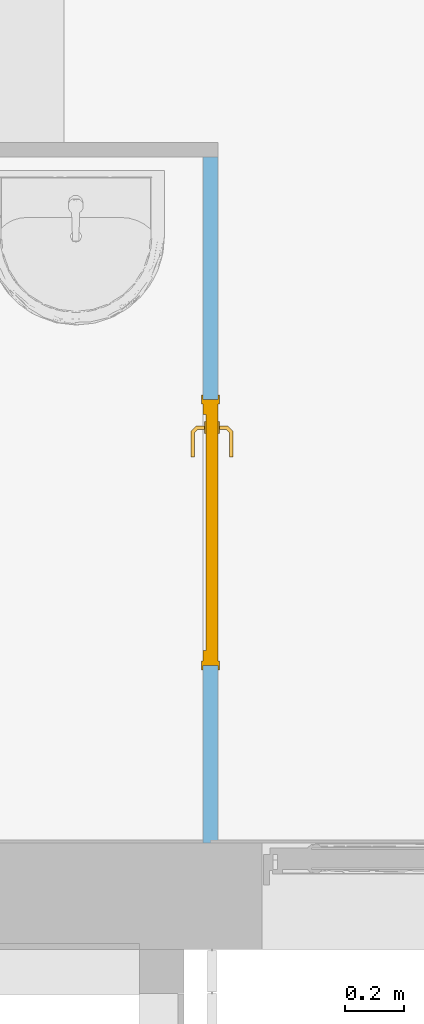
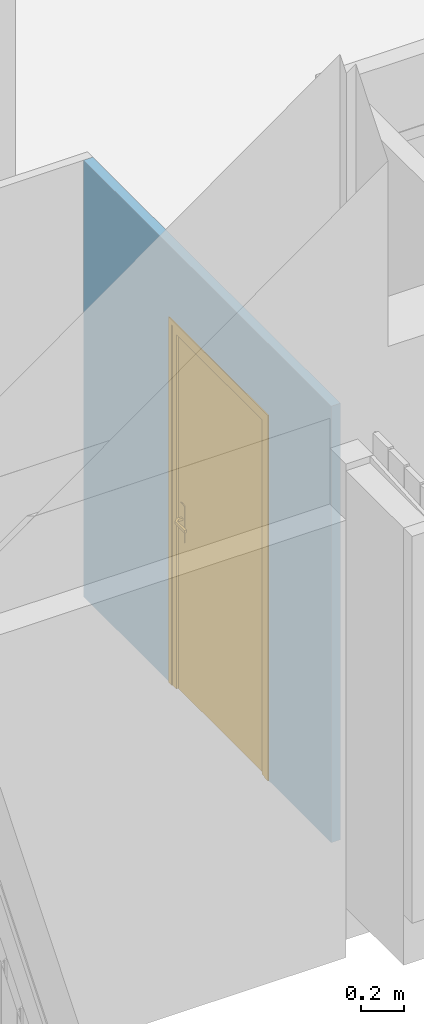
# One storey, part 74 of 81: 1 door, 1 opening, plus 1 element that does not belong to this part.
"""IFC2X3 building model written with IfcOpenShell, lengths in metres."""

from ifc_helpers import new_model, entity, si_unit, converted_unit, derived_unit, direction, frame, frame_2d, origin, place, context, subcontext, project, spatial, polyline, rectangle, extrude, clip, bounded_halfspace, faceted_brep, source, transform, mapped, material, material_list, layer, layer_set, layer_usage, type_object, type_shapes, element, fill, save


model = new_model("IFC2X3")

# Units and contexts
model_context = context("Model", 3, precision=1e-05, world=origin(), true_north=direction((6.12303176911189e-17, 1.0)))
body_context = subcontext(model_context, "Body", "Model", "MODEL_VIEW")
ifc_project = project(units=[si_unit("LENGTHUNIT", "METRE"), si_unit("AREAUNIT", "SQUARE_METRE"), si_unit("VOLUMEUNIT", "CUBIC_METRE"), converted_unit("PLANEANGLEUNIT", "DEGREE", entity("IfcRatioMeasure", 0.0174532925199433), si_unit("PLANEANGLEUNIT", "RADIAN"), dimensions=[0, 0, 0, 0, 0, 0, 0]), si_unit("MASSUNIT", "GRAM", prefix="KILO"), derived_unit("MASSDENSITYUNIT", [(si_unit("MASSUNIT", "GRAM", prefix="KILO"), 1), (si_unit("LENGTHUNIT", "METRE"), -3)]), derived_unit("MOMENTOFINERTIAUNIT", [(si_unit("LENGTHUNIT", "METRE"), 4)]), si_unit("TIMEUNIT", "SECOND"), si_unit("FREQUENCYUNIT", "HERTZ"), si_unit("THERMODYNAMICTEMPERATUREUNIT", "DEGREE_CELSIUS"), derived_unit("THERMALTRANSMITTANCEUNIT", [(si_unit("MASSUNIT", "GRAM", prefix="KILO"), 1), (si_unit("THERMODYNAMICTEMPERATUREUNIT", "KELVIN"), -1), (si_unit("TIMEUNIT", "SECOND"), -3)]), derived_unit("VOLUMETRICFLOWRATEUNIT", [(si_unit("LENGTHUNIT", "METRE"), 3), (si_unit("TIMEUNIT", "SECOND"), -1)]), si_unit("ELECTRICCURRENTUNIT", "AMPERE"), si_unit("ELECTRICVOLTAGEUNIT", "VOLT"), si_unit("POWERUNIT", "WATT"), si_unit("FORCEUNIT", "NEWTON", prefix="KILO"), si_unit("ILLUMINANCEUNIT", "LUX"), si_unit("LUMINOUSFLUXUNIT", "LUMEN"), si_unit("LUMINOUSINTENSITYUNIT", "CANDELA"), derived_unit("USERDEFINED", [(si_unit("MASSUNIT", "GRAM", prefix="KILO"), -1), (si_unit("LENGTHUNIT", "METRE"), -2), (si_unit("TIMEUNIT", "SECOND"), 3), (si_unit("LUMINOUSFLUXUNIT", "LUMEN"), 1)]), derived_unit("LINEARVELOCITYUNIT", [(si_unit("LENGTHUNIT", "METRE"), 1), (si_unit("TIMEUNIT", "SECOND"), -1)]), si_unit("PRESSUREUNIT", "PASCAL"), derived_unit("USERDEFINED", [(si_unit("LENGTHUNIT", "METRE"), -2), (si_unit("MASSUNIT", "GRAM", prefix="KILO"), 1), (si_unit("TIMEUNIT", "SECOND"), -2)]), derived_unit("LINEARFORCEUNIT", [(si_unit("MASSUNIT", "GRAM", prefix="KILO"), 1), (si_unit("LENGTHUNIT", "METRE"), 1), (si_unit("TIMEUNIT", "SECOND"), -2), (si_unit("LENGTHUNIT", "METRE"), -1)]), derived_unit("PLANARFORCEUNIT", [(si_unit("MASSUNIT", "GRAM", prefix="KILO"), 1), (si_unit("LENGTHUNIT", "METRE"), 1), (si_unit("TIMEUNIT", "SECOND"), -2), (si_unit("LENGTHUNIT", "METRE"), -2)])], contexts=[model_context])

# Site, building, storey
site_placement = place(None, origin())
site = spatial("IfcSite", under=ifc_project, at=site_placement, Name="Surface", CompositionType="ELEMENT")
building_placement = place(site_placement, origin())
building = spatial("IfcBuilding", under=site, at=building_placement, CompositionType="ELEMENT")
storey_placement = place(building_placement, origin())
storey = spatial("IfcBuildingStorey", under=building, at=storey_placement, Name="01 RDC", CompositionType="ELEMENT", Elevation=-1.94916083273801e-14)

# Wall, opening, door
ifc_material_1 = material(Name="Mur par défaut")
ifc_layer = layer(ifc_material_1, 0.05)
ifc_layer_set = layer_set([ifc_layer], Name="Mur de base:Int. Plâtre 50 mm")
ifc_layer_usage = layer_usage(ifc_layer_set, "AXIS2", "NEGATIVE", 0.025)
wall_type = type_object("IfcWallType", Name="Mur de base:Int. Plâtre 50 mm", PredefinedType="STANDARD", material=ifc_layer_set)
wall_placement = place(storey_placement, frame((8.0165615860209, -1.01596095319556, 0.0), z_axis=(0.0, 0.0, 1.0), x_axis=(0.0, -1.0, 0.0)))
wall = element("IfcWallStandardCase", 1, at=wall_placement, inside=storey, type_object=wall_type, material=ifc_layer_usage, Name="Mur de base:Int. Plâtre 50 mm", ObjectType="Mur de base:Int. Plâtre 50 mm", context=body_context, shape_type="Clipping", body=[
    clip(extrude(rectangle(XDim=2.32, YDim=0.0499999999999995, at=frame_2d((1.16, -1.73472347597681e-17), x_axis=(-1.0, 0.0))), origin(), (0.0, 0.0, 1.0), 2.495), bounded_halfspace(frame((0.0, -0.0250000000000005, 2.495), z_axis=(0.0, 0.0, -1.0), x_axis=(-1.0, 0.0, 0.0)), True, frame((0.0, -0.0250000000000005, 2.495)), polyline([(0.0, 0.0), (2.31, 0.0), (2.32, 0.0), (2.32, 0.0250000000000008), (2.32, 0.0500000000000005), (2.31, 0.0500000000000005), (0.0, 0.0500000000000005), (0.0, 0.0)]))),
])
opening_placement = place(wall_placement, frame((0.820000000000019, -0.0249999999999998, 0.0)))
opening = element("IfcOpeningElement", 2, at=opening_placement, cuts=wall, Name="Int. Simple:PP (0.83m x 2.04m):1", ObjectType="Opening", context=body_context, shape_type="SweptSolid", body=[
    extrude(rectangle(XDim=2.075, YDim=0.9, at=frame_2d((1.0375, 0.45), x_axis=(1.0, 0.0))), frame((0.0, 0.0, 0.0), z_axis=(0.0, 1.0, 0.0), x_axis=(0.0, 0.0, 1.0)), (0.0, 0.0, 1.0), 0.05),
])
ifc_material_2 = material(Name="Finition Peinture - Blanc satiné")
ifc_material_3 = material(Name="Bois - Panneau de porte")
ifc_material_4 = material(Name="Bois - Cadre de porte")
ifc_material_list_1 = material_list([ifc_material_2, ifc_material_3, ifc_material_4])
ifc_material_list_2 = material_list([ifc_material_4, ifc_material_4, ifc_material_3, ifc_material_2])
door_style = type_object("IfcDoorStyle", Name="Int. Simple:PP (0.83m x 2.04m)", ConstructionType="NOTDEFINED", OperationType="NOTDEFINED", ParameterTakesPrecedence=False, Sizeable=False, material=ifc_material_list_2)
shared_shape = source(origin(), body_context, "Body", "Brep", [
    faceted_brep([(0.895000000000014, -0.00500000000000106, 0.870000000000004), (0.895000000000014, -0.00500000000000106, 1.08), (0.885352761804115, -0.00500000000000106, 1.08399601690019), (0.875000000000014, -0.00500000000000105, 1.08535898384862), (0.864647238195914, -0.00500000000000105, 1.08399601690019), (0.855000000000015, -0.00500000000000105, 1.08), (0.855000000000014, -0.00500000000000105, 0.870000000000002), (0.864647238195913, -0.00500000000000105, 0.866003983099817), (0.875000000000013, -0.00500000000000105, 0.86464101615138), (0.885352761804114, -0.00500000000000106, 0.866003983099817), (0.895000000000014, 0.0, 1.08), (0.895000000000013, 0.0, 0.870000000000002), (0.885352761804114, 0.0, 0.866003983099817), (0.875000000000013, 0.0, 0.86464101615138), (0.864647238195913, 0.0, 0.866003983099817), (0.855000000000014, 0.0, 0.870000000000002), (0.855000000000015, 0.0, 1.08), (0.864647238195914, 0.0, 1.08399601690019), (0.875000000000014, 0.0, 1.08535898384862), (0.885352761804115, 0.0, 1.08399601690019)], [[[0, 1, 2, 3, 4, 5, 6, 7, 8, 9]], [[10, 11, 12, 13, 14, 15, 16, 17, 18, 19]], [[9, 12, 11, 0]], [[8, 13, 12, 9]], [[7, 14, 13, 8]], [[7, 6, 15, 14]], [[15, 6, 5, 16]], [[4, 17, 16, 5]], [[3, 18, 17, 4]], [[2, 19, 18, 3]], [[2, 1, 10, 19]], [[11, 10, 1, 0]]]),
    faceted_brep([(0.895000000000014, 0.0399999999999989, 0.870000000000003), (0.895000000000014, 0.0399999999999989, 1.08), (0.885352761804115, 0.0399999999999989, 1.08399601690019), (0.875000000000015, 0.0399999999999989, 1.08535898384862), (0.864647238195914, 0.0399999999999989, 1.08399601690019), (0.855000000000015, 0.0399999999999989, 1.08), (0.855000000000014, 0.0399999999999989, 0.870000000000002), (0.864647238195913, 0.0399999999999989, 0.866003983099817), (0.875000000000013, 0.0399999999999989, 0.86464101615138), (0.885352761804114, 0.0399999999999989, 0.866003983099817), (0.875000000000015, 0.0449999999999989, 1.08535898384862), (0.885352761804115, 0.0449999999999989, 1.08399601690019), (0.895000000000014, 0.0449999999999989, 1.08), (0.895000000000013, 0.0449999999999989, 0.870000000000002), (0.885352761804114, 0.0449999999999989, 0.866003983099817), (0.875000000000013, 0.0449999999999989, 0.86464101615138), (0.864647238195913, 0.0449999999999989, 0.866003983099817), (0.855000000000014, 0.0449999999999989, 0.870000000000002), (0.855000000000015, 0.0449999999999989, 1.08), (0.864647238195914, 0.0449999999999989, 1.08399601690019)], [[[0, 1, 2, 3, 4, 5, 6, 7, 8, 9]], [[10, 11, 12, 13, 14, 15, 16, 17, 18, 19]], [[4, 19, 18, 5]], [[3, 10, 19, 4]], [[2, 11, 10, 3]], [[2, 1, 12, 11]], [[13, 12, 1, 0]], [[9, 14, 13, 0]], [[8, 15, 14, 9]], [[7, 16, 15, 8]], [[7, 6, 17, 16]], [[17, 6, 5, 18]]]),
    faceted_brep([(0.872974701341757, -0.0050000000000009, 1.00778044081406), (0.877025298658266, -0.00500000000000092, 1.00778044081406), (0.881000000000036, -0.00500000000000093, 1.00699999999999), (0.881000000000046, -0.00500000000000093, 0.992999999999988), (0.877025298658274, -0.00500000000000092, 0.99221955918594), (0.872974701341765, -0.0050000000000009, 0.992219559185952), (0.868999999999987, -0.00500000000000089, 0.993000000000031), (0.868999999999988, -0.00500000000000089, 1.007), (0.877025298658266, -0.0310045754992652, 1.00778044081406), (0.881000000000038, -0.0326509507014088, 1.007), (0.872974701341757, -0.0293267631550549, 1.00778044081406), (0.859298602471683, -0.0430028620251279, 1.00778044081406), (0.860976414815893, -0.0470534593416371, 1.00778044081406), (0.868999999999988, -0.0276803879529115, 1.007), (0.868999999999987, -0.0276803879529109, 0.993000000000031), (0.872974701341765, -0.0293267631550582, 0.992219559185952), (0.877025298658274, -0.0310045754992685, 0.99221955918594), (0.860976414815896, -0.047053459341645, 0.99221955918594), (0.859298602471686, -0.0430028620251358, 0.992219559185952), (0.881000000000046, -0.0326509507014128, 0.992999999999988), (0.862622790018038, -0.0510281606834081, 1.007), (0.85765222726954, -0.0390281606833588, 1.007), (0.857652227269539, -0.0390281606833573, 0.993000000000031), (0.862622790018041, -0.0510281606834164, 0.992999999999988), (0.774981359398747, -0.0510281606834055, 1.007), (0.774981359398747, -0.0470534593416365, 1.00778044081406), (0.774981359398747, -0.0430028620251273, 1.00778044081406), (0.774981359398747, -0.0390281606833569, 1.00699999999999), (0.774981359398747, -0.0390281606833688, 0.993000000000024), (0.774981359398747, -0.0430028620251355, 0.992219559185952), (0.774981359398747, -0.0470534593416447, 0.99221955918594), (0.774981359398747, -0.0510281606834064, 0.992999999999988), (0.81713998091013, -0.045028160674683, 1.0078786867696), (0.822692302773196, -0.051028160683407, 1.007), (0.816316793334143, -0.039028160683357, 1.007), (0.816316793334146, -0.0390281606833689, 0.993000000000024), (0.817139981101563, -0.0450281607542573, 0.992121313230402), (0.822692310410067, -0.0510281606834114, 0.992999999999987)], [[[0, 1, 2, 3, 4, 5, 6, 7]], [[2, 1, 8, 9]], [[1, 0, 10, 11, 12, 8]], [[0, 7, 13, 10]], [[14, 13, 7, 6]], [[5, 15, 14, 6]], [[5, 4, 16, 17, 18, 15]], [[3, 19, 16, 4]], [[9, 19, 3, 2]], [[9, 8, 12, 20]], [[10, 13, 21, 11]], [[22, 21, 13, 14]], [[14, 15, 18, 22]], [[16, 19, 23, 17]], [[20, 23, 19, 9]], [[24, 25, 26, 27, 28, 29, 30, 31]], [[32, 25, 33]], [[33, 25, 24]], [[33, 20, 12]], [[11, 34, 32]], [[34, 11, 21]], [[27, 26, 34]], [[32, 26, 25]], [[32, 34, 26]], [[32, 33, 12]], [[11, 32, 12]], [[21, 22, 35, 28, 27, 34]], [[36, 29, 35]], [[30, 36, 37]], [[18, 35, 22]], [[29, 28, 35]], [[30, 37, 31]], [[37, 17, 23]], [[36, 17, 37]], [[36, 18, 17]], [[36, 35, 18]], [[29, 36, 30]], [[23, 20, 33, 24, 31, 37]]]),
    faceted_brep([(0.872974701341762, 0.0449999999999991, 0.992219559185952), (0.877025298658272, 0.0449999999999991, 0.99221955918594), (0.881000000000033, 0.044999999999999, 0.992999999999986), (0.881000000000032, 0.044999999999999, 1.007), (0.877025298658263, 0.0449999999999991, 1.00778044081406), (0.872974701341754, 0.0449999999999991, 1.00778044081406), (0.868999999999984, 0.0449999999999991, 1.007), (0.868999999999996, 0.0449999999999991, 0.993000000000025), (0.868999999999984, 0.067485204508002, 1.007), (0.868999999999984, 0.0674852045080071, 0.993000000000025), (0.872974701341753, 0.0691315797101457, 1.00778044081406), (0.877025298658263, 0.070809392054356, 1.00778044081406), (0.860838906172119, 0.0869957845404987, 1.00778044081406), (0.859161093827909, 0.0829451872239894, 1.00778044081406), (0.881000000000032, 0.0724557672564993, 1.007), (0.881000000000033, 0.0724557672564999, 0.992999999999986), (0.877025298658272, 0.0708093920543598, 0.99221955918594), (0.872974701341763, 0.0691315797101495, 0.992219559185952), (0.859161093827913, 0.0829451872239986, 0.992219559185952), (0.860838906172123, 0.0869957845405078, 0.99221955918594), (0.857514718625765, 0.0789704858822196, 1.007), (0.857514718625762, 0.0789704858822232, 0.993000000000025), (0.862485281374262, 0.0909704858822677, 1.007), (0.862485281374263, 0.0909704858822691, 0.992999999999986), (0.77495421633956, 0.0829451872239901, 1.00778044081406), (0.77495421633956, 0.0869957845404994, 1.00778044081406), (0.77495421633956, 0.0909704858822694, 1.007), (0.77495421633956, 0.0909704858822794, 0.992999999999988), (0.77495421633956, 0.086995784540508, 0.99221955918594), (0.77495421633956, 0.0829451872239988, 0.992219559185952), (0.77495421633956, 0.0789704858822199, 0.993000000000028), (0.77495421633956, 0.0789704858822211, 1.007), (0.816234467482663, 0.0789704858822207, 1.007), (0.816234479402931, 0.0789704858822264, 0.993000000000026), (0.817057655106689, 0.0849704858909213, 1.0078786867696), (0.822554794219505, 0.0909704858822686, 1.007), (0.822554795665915, 0.0909704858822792, 0.992999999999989), (0.817057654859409, 0.0849704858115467, 0.992121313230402)], [[[0, 1, 2, 3, 4, 5, 6, 7]], [[8, 9, 7, 6]], [[5, 10, 8, 6]], [[5, 4, 11, 12, 13, 10]], [[3, 14, 11, 4]], [[14, 3, 2, 15]], [[2, 1, 16, 15]], [[1, 0, 17, 18, 19, 16]], [[0, 7, 9, 17]], [[20, 21, 9, 8]], [[8, 10, 13, 20]], [[14, 22, 12, 11]], [[23, 22, 14, 15]], [[15, 16, 19, 23]], [[17, 9, 21, 18]], [[24, 25, 26, 27, 28, 29, 30, 31]], [[21, 20, 32, 31, 30, 33]], [[34, 24, 32]], [[25, 34, 35]], [[13, 32, 20]], [[24, 31, 32]], [[25, 35, 26]], [[35, 12, 22]], [[34, 12, 35]], [[34, 13, 12]], [[34, 32, 13]], [[24, 34, 25]], [[22, 23, 36, 27, 26, 35]], [[37, 28, 36]], [[36, 28, 27]], [[36, 23, 19]], [[18, 33, 37]], [[33, 18, 21]], [[30, 29, 33]], [[37, 29, 28]], [[37, 33, 29]], [[37, 36, 19]], [[18, 37, 19]]]),
    faceted_brep([(0.935000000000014, 0.04, 2.04), (0.935000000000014, 0.04, 0.0), (0.105000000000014, 0.04, 0.0), (0.105000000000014, 0.04, 2.04), (0.935000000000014, 0.0, 2.04), (0.105000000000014, 0.0, 2.04), (0.105000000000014, 0.0, 0.0), (0.935000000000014, 0.0, 0.0)], [[[0, 1, 2, 3]], [[4, 5, 6, 7]], [[3, 5, 4, 0]], [[2, 6, 5, 3]], [[1, 7, 6, 2]], [[0, 4, 7, 1]]]),
    faceted_brep([(0.970000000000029, 0.0, 0.0), (0.935000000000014, 0.0, 0.0), (0.935000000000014, 0.040000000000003, 0.0), (0.920000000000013, 0.040000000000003, 0.0), (0.920000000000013, 0.050000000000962, 0.0), (0.970000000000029, 0.050000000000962, 0.0), (0.970000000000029, 0.050000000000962, 2.07500000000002), (0.970000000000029, 0.0, 2.07500000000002), (0.920000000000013, 0.050000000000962, 2.025), (0.120000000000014, 0.050000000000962, 2.025), (0.120000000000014, 0.050000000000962, 0.0), (0.0699999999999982, 0.050000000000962, 0.0), (0.0699999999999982, 0.050000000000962, 2.07500000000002), (0.920000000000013, 0.040000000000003, 2.025), (0.935000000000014, 0.040000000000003, 2.04), (0.105000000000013, 0.040000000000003, 2.04), (0.105000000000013, 0.040000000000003, 0.0), (0.120000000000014, 0.040000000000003, 0.0), (0.120000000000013, 0.040000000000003, 2.025), (0.935000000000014, 0.0, 2.04), (0.0699999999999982, 0.0, 2.07500000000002), (0.0699999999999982, 0.0, 0.0), (0.105000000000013, 0.0, 0.0), (0.105000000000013, 0.0, 2.04)], [[[0, 1, 2, 3, 4, 5]], [[5, 6, 7, 0]], [[4, 8, 9, 10, 11, 12, 6, 5]], [[3, 13, 8, 4]], [[2, 14, 15, 16, 17, 18, 13, 3]], [[1, 19, 14, 2]], [[0, 7, 20, 21, 22, 23, 19, 1]], [[12, 11, 21, 20]], [[21, 11, 10, 17, 16, 22]], [[18, 17, 10, 9]], [[23, 22, 16, 15]], [[6, 12, 20, 7]], [[13, 18, 9, 8]], [[19, 23, 15, 14]]]),
    faceted_brep([(0.955000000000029, 0.050000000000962, 0.0), (0.955000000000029, 0.055000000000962, 0.0), (0.985000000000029, 0.055000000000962, 0.0), (0.985000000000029, 0.050000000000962, 0.0), (0.985000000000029, 0.050000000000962, 2.09000000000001), (0.0550000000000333, 0.050000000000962, 2.09000000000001), (0.0550000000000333, 0.050000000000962, 0.0), (0.0850000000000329, 0.050000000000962, 0.0), (0.0850000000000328, 0.050000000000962, 2.06000000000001), (0.955000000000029, 0.050000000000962, 2.06000000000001), (0.985000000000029, 0.055000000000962, 2.09000000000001), (0.955000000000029, 0.055000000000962, 2.06000000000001), (0.0850000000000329, 0.055000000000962, 2.06000000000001), (0.0850000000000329, 0.055000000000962, 0.0), (0.055000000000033, 0.055000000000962, 0.0), (0.0550000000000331, 0.055000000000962, 2.09000000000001)], [[[0, 1, 2, 3]], [[3, 4, 5, 6, 7, 8, 9, 0]], [[2, 10, 4, 3]], [[1, 11, 12, 13, 14, 15, 10, 2]], [[0, 9, 11, 1]], [[7, 6, 14, 13]], [[8, 7, 13, 12]], [[15, 14, 6, 5]], [[10, 15, 5, 4]], [[9, 8, 12, 11]]]),
    faceted_brep([(0.985000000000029, -0.005, 0.0), (0.985000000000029, -0.005, 2.09000000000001), (0.0550000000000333, -0.005, 2.09000000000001), (0.0550000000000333, -0.005, 0.0), (0.0850000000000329, -0.005, 0.0), (0.0850000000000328, -0.005, 2.06000000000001), (0.955000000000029, -0.005, 2.06000000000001), (0.955000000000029, -0.005, 0.0), (0.985000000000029, 0.0, 0.0), (0.985000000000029, 0.0, 2.09000000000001), (0.955000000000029, 0.0, 0.0), (0.955000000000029, 0.0, 2.06000000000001), (0.0850000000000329, 0.0, 2.06000000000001), (0.0850000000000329, 0.0, 0.0), (0.055000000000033, 0.0, 0.0), (0.0550000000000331, 0.0, 2.09000000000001)], [[[0, 1, 2, 3, 4, 5, 6, 7]], [[8, 9, 1, 0]], [[10, 11, 12, 13, 14, 15, 9, 8]], [[7, 6, 11, 10]], [[5, 4, 13, 12]], [[15, 14, 3, 2]], [[9, 15, 2, 1]], [[6, 5, 12, 11]], [[4, 3, 14, 13]], [[7, 10, 8, 0]]]),
])
type_shapes(door_style, [shared_shape])
door_placement = place(opening_placement, frame((0.970000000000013, 0.0499999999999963, 0.0), z_axis=(0.0, 0.0, 1.0), x_axis=(-1.0, 0.0, 0.0)))
door = element("IfcDoor", 3, at=door_placement, inside=storey, type_object=door_style, material=ifc_material_list_1, Name="Int. Simple:PP (0.83m x 2.04m)", ObjectType="Int. Simple:PP (0.83m x 2.04m)", OverallHeight=2.075, OverallWidth=0.9, context=body_context, shape_type="MappedRepresentation", body=[
    mapped(shared_shape, transform((0.0, 0.0, 0.0), scale=1.0)),
])
fill(opening, door)

save(model, "model.ifc")
